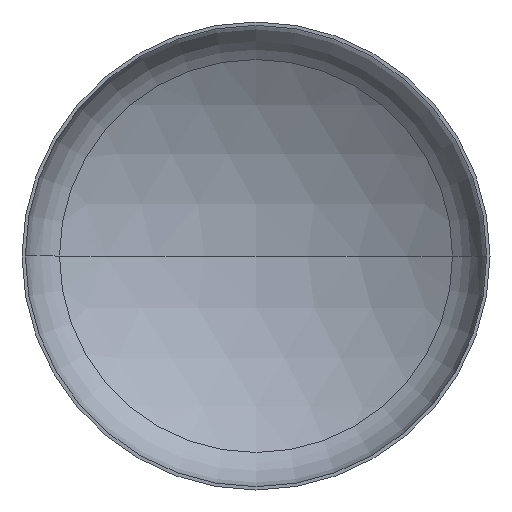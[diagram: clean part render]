
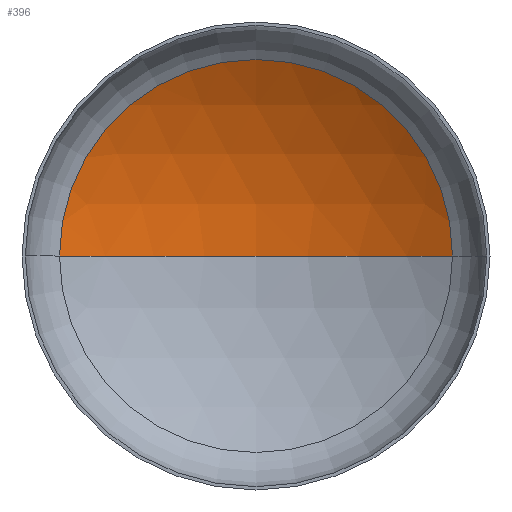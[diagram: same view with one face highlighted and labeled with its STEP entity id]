
A CAD part, front view. The second image highlights one B-rep face of the part: STEP entity #396.
In plain terms, the highlighted spherical face has radius 4400 mm.
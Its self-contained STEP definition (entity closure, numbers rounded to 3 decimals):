
#9 = VERTEX_POINT ( 'NONE', #123 ) ;
#18 = CARTESIAN_POINT ( 'NONE',  ( 0., -2905.9, 0. ) ) ;
#44 = ORIENTED_EDGE ( 'NONE', *, *, #292, .T. ) ;
#49 = ORIENTED_EDGE ( 'NONE', *, *, #317, .F. ) ;
#53 = CARTESIAN_POINT ( 'NONE',  ( -2309.536, 839.236, 0. ) ) ;
#66 = EDGE_LOOP ( 'NONE', ( #49, #44, #221 ) ) ;
#78 = EDGE_CURVE ( 'NONE', #97, #188, #329, .T. ) ;
#97 = VERTEX_POINT ( 'NONE', #153 ) ;
#123 = CARTESIAN_POINT ( 'NONE',  ( 0., 1494.1, 0. ) ) ;
#131 = CIRCLE ( 'NONE', #376, 4400. ) ;
#139 = CARTESIAN_POINT ( 'NONE',  ( 0., -2905.9, 0. ) ) ;
#153 = CARTESIAN_POINT ( 'NONE',  ( 2309.536, 839.236, 0. ) ) ;
#178 = DIRECTION ( 'NONE',  ( -1., 0., 0. ) ) ;
#185 = AXIS2_PLACEMENT_3D ( 'NONE', #228, #186, #225 ) ;
#186 = DIRECTION ( 'NONE',  ( 0., 0., -1. ) ) ;
#188 = VERTEX_POINT ( 'NONE', #53 ) ;
#192 = DIRECTION ( 'NONE',  ( 1., 0., 0. ) ) ;
#221 = ORIENTED_EDGE ( 'NONE', *, *, #78, .T. ) ;
#225 = DIRECTION ( 'NONE',  ( -1., 0., 0. ) ) ;
#228 = CARTESIAN_POINT ( 'NONE',  ( 0., -2905.9, 0. ) ) ;
#279 = DIRECTION ( 'NONE',  ( 0., 0., 1. ) ) ;
#284 = DIRECTION ( 'NONE',  ( 1., 0., 0. ) ) ;
#288 = CARTESIAN_POINT ( 'NONE',  ( 0., 839.236, 0. ) ) ;
#289 = DIRECTION ( 'NONE',  ( 0., -1., 0. ) ) ;
#292 = EDGE_CURVE ( 'NONE', #9, #97, #377, .T. ) ;
#317 = EDGE_CURVE ( 'NONE', #9, #188, #131, .T. ) ;
#329 = CIRCLE ( 'NONE', #383, 2309.536 ) ;
#345 = AXIS2_PLACEMENT_3D ( 'NONE', #139, #355, #178 ) ;
#349 = SPHERICAL_SURFACE ( 'NONE', #185, 4400. ) ;
#355 = DIRECTION ( 'NONE',  ( 0., 0., -1. ) ) ;
#357 = FACE_OUTER_BOUND ( 'NONE', #66, .T. ) ;
#376 = AXIS2_PLACEMENT_3D ( 'NONE', #18, #279, #284 ) ;
#377 = CIRCLE ( 'NONE', #345, 4400. ) ;
#383 = AXIS2_PLACEMENT_3D ( 'NONE', #288, #289, #192 ) ;
#396 = ADVANCED_FACE ( 'NONE', ( #357 ), #349, .F. ) ;
